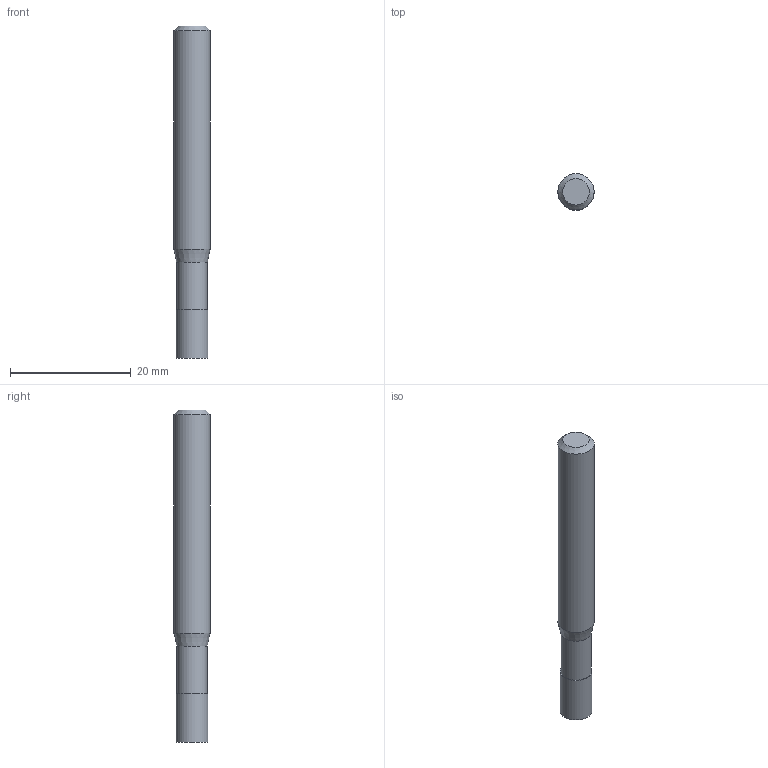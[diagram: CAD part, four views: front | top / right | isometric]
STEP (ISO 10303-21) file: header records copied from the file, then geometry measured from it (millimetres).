
FILE_DESCRIPTION((''),'2;1');
FILE_NAME('C:\Users\nsx150\AppData\Local\Temp\Mastercam 2021\EUJSUNXURU\TEMP.step','2021-04-22T10:28:37',(''),(''),'STEP Write','Mastercam 2021 ... CNC Software, Inc.','');
FILE_SCHEMA(('AUTOMOTIVE_DESIGN'));
Length unit declared in the file: millimetre
Products named in the file (1): None
Bounding box: 6 x 6 x 55 mm (x, y, z)
Volume: 1429.4 mm3; surface area: 1077.8 mm2
Topology: 2 solids, 2 shells, 9 faces, 12 edges, 7 vertices
Faces by surface type: plane 4, cylinder 3, cone 2
Full cylindrical faces by diameter (mm): 5.1 x1, 5.3 x1, 6 x1
Entity records: 211 total; most frequent: DIRECTION 36, CARTESIAN_POINT 25, AXIS2_PLACEMENT_3D 18, ORIENTED_EDGE 14, EDGE_LOOP 14, STYLED_ITEM 12, ADVANCED_FACE 9, FACE_BOUND 8
